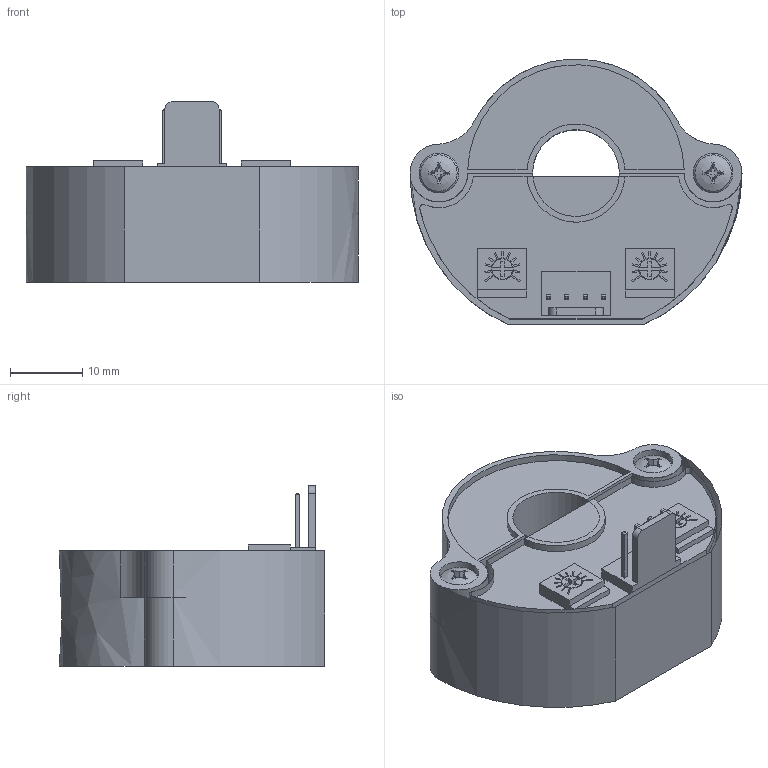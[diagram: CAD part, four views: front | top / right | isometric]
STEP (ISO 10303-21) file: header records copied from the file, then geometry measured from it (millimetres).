
FILE_DESCRIPTION( ('This file contains a STEP AP42 implementation' ,'as created by ZW3D STEP Interface translator.') ,'2;1' );
FILE_NAME( 'EKC俋倰-3D.stp' ,'22 8 5.165855', (''), ('ZWCAD Software Co.'), 'Version 1.0', 'ZW3D to STEP translator', '' );
FILE_SCHEMA( ('CONFIG_CONTROL_DESIGN') );
Length unit declared in the file: millimetre
Products named in the file (1): 0
Bounding box: 46 x 36.8 x 25 mm (x, y, z)
Volume: 7214.2 mm3; surface area: 12643.7 mm2
Topology: 6 solids, 6 shells, 374 faces, 901 edges, 592 vertices
Faces by surface type: bspline 374
Entity records: 12586 total; most frequent: CARTESIAN_POINT 6551, ORIENTED_EDGE 1802, EDGE_CURVE 901, B_SPLINE_CURVE_WITH_KNOTS 751, VERTEX_POINT 592, EDGE_LOOP 435, FACE_OUTER_BOUND 374, ADVANCED_FACE 374
